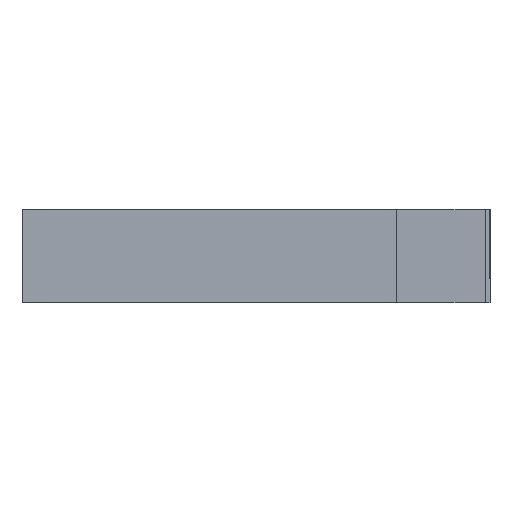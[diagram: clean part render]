
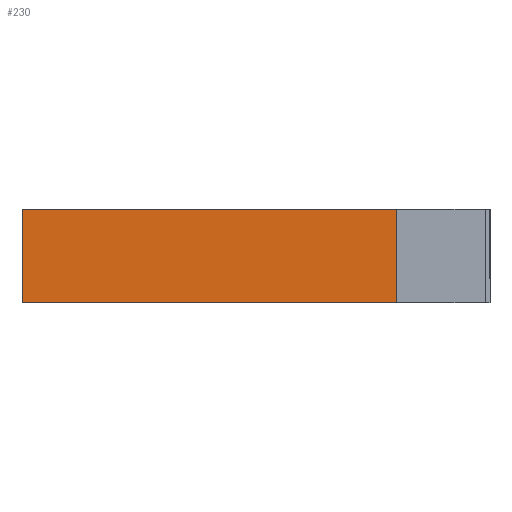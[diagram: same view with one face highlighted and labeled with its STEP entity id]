
A CAD part, left-side view. The second image highlights one B-rep face of the part: STEP entity #230.
In plain terms, the highlighted planar face has unit normal (-1, 0, 0).
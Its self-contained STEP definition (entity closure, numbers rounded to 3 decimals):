
#230 = ADVANCED_FACE ( 'NONE', ( #2420 ), #1310, .T. ) ;
#703 = CARTESIAN_POINT ( 'NONE',  ( -30., 25., 10. ) ) ;
#705 = DIRECTION ( 'NONE',  ( 0., 0., -1. ) ) ;
#739 = CARTESIAN_POINT ( 'NONE',  ( -30., -25., 0. ) ) ;
#749 = DIRECTION ( 'NONE',  ( 0., 1., 0. ) ) ;
#812 = CARTESIAN_POINT ( 'NONE',  ( -30., -25., 10. ) ) ;
#835 = DIRECTION ( 'NONE',  ( 0., 1., 0. ) ) ;
#1263 = DIRECTION ( 'NONE',  ( -1., 0., 0. ) ) ;
#1279 = CARTESIAN_POINT ( 'NONE',  ( -30., -25., 10. ) ) ;
#1308 = DIRECTION ( 'NONE',  ( 0., -1., 0. ) ) ;
#1310 = PLANE ( 'NONE',  #2482 ) ;
#1816 = EDGE_LOOP ( 'NONE', ( #3397, #3372, #3389, #3405 ) ) ;
#1969 = VERTEX_POINT ( 'NONE', #3837 ) ;
#2056 = VERTEX_POINT ( 'NONE', #3911 ) ;
#2057 = VERTEX_POINT ( 'NONE', #3899 ) ;
#2069 = VERTEX_POINT ( 'NONE', #3880 ) ;
#2184 = LINE ( 'NONE', #3646, #2186 ) ;
#2186 = VECTOR ( 'NONE', #3626, 1000. ) ;
#2298 = LINE ( 'NONE', #739, #2308 ) ;
#2308 = VECTOR ( 'NONE', #749, 1000. ) ;
#2317 = LINE ( 'NONE', #703, #2320 ) ;
#2320 = VECTOR ( 'NONE', #705, 1000. ) ;
#2328 = LINE ( 'NONE', #812, #2343 ) ;
#2343 = VECTOR ( 'NONE', #835, 1000. ) ;
#2420 = FACE_OUTER_BOUND ( 'NONE', #1816, .T. ) ;
#2482 = AXIS2_PLACEMENT_3D ( 'NONE', #1279, #1263, #1308 ) ;
#2843 = EDGE_CURVE ( 'NONE', #1969, #2069, #2184, .T. ) ;
#2894 = EDGE_CURVE ( 'NONE', #2057, #2056, #2317, .T. ) ;
#2901 = EDGE_CURVE ( 'NONE', #1969, #2056, #2298, .T. ) ;
#2913 = EDGE_CURVE ( 'NONE', #2069, #2057, #2328, .T. ) ;
#3372 = ORIENTED_EDGE ( 'NONE', *, *, #2913, .T. ) ;
#3389 = ORIENTED_EDGE ( 'NONE', *, *, #2894, .T. ) ;
#3397 = ORIENTED_EDGE ( 'NONE', *, *, #2843, .T. ) ;
#3405 = ORIENTED_EDGE ( 'NONE', *, *, #2901, .F. ) ;
#3626 = DIRECTION ( 'NONE',  ( 0., 0., 1. ) ) ;
#3646 = CARTESIAN_POINT ( 'NONE',  ( -30., -15., 0. ) ) ;
#3837 = CARTESIAN_POINT ( 'NONE',  ( -30., -15., 0. ) ) ;
#3880 = CARTESIAN_POINT ( 'NONE',  ( -30., -15., 10. ) ) ;
#3899 = CARTESIAN_POINT ( 'NONE',  ( -30., 25., 10. ) ) ;
#3911 = CARTESIAN_POINT ( 'NONE',  ( -30., 25., 0. ) ) ;
